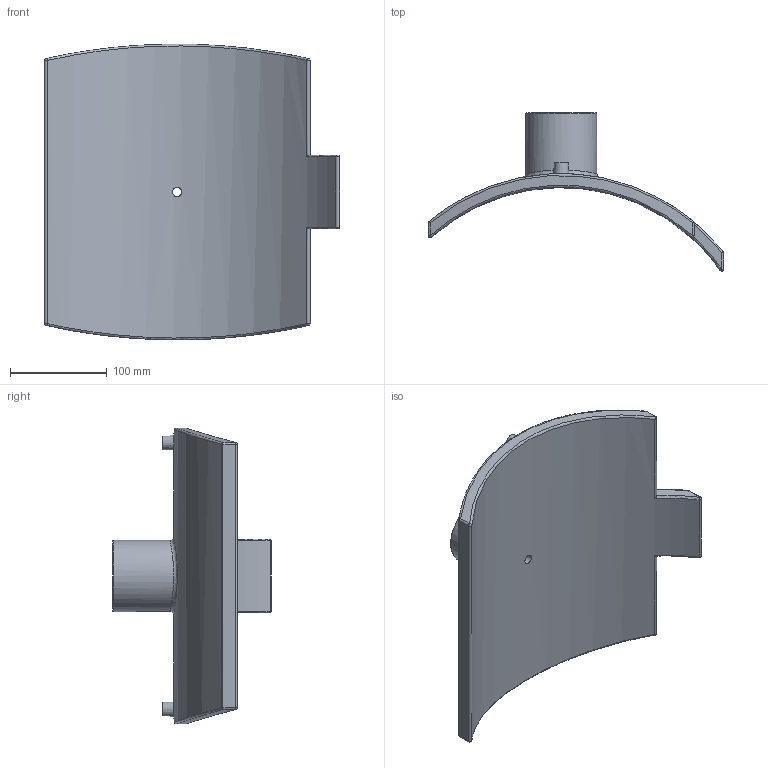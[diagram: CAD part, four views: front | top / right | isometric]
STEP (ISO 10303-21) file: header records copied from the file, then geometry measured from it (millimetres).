
FILE_DESCRIPTION(/* description */ ('PLASSON BRANCH SADDLE 250-400 x 2'''''),/* implementation_level */ '2;1');
FILE_NAME(/* name */ 'C:\Dropbox\KIMPROJECTS-Inventor 2019\99-16-3568-Processing\ElectroFusion Fittings\493804-2\493804400020.stp',/* time_stamp */ '2021-09-05T10:51:26+03:00',/* author */ ('KIM'),/* organization */ (''),/* preprocessor_version */ 'ST-DEVELOPER v17.2',/* originating_system */ 'Autodesk Inventor 2019',/* authorisation */ '');
FILE_SCHEMA (('AUTOMOTIVE_DESIGN { 1 0 10303 214 3 1 1 }'));
Length unit declared in the file: millimetre
Products named in the file (1): 493804400020
Bounding box: 305 x 163.54 x 305.84 mm (x, y, z)
Volume: 1405751.4 mm3; surface area: 229354.9 mm2
Topology: 1 solids, 1 shells, 68 faces, 139 edges, 83 vertices
Faces by surface type: cylinder 28, plane 15, sphere 12, torus 6, bspline 5, cone 2
Full cylindrical faces by diameter (mm): 4 x2, 9.6 x1, 10 x2, 16 x1, 53.823 x1, 56.656 x1, 73.653 x1
Entity records: 2461 total; most frequent: CARTESIAN_POINT 988, DIRECTION 315, ORIENTED_EDGE 278, EDGE_CURVE 139, AXIS2_PLACEMENT_3D 137, VERTEX_POINT 83, EDGE_LOOP 80, CIRCLE 73
